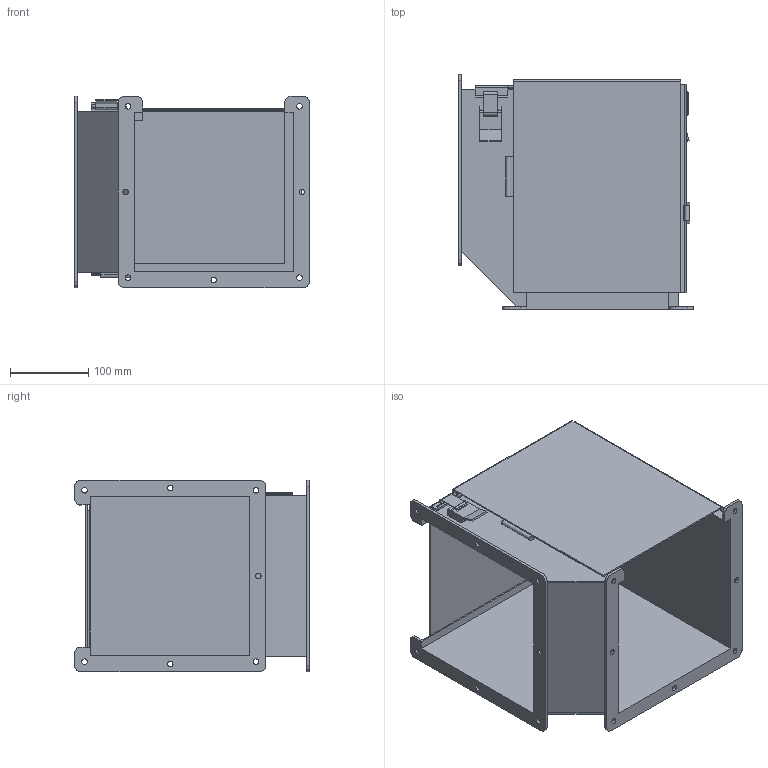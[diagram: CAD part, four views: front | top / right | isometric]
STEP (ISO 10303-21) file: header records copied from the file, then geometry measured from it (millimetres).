
FILE_DESCRIPTION((''),'1');
FILE_NAME('4','2001-04-18T',('jlue'),(''),'PRO/ENGINEER BY PARAMETRIC TECHNOLOGY CORPORATION, 9846','PRO/ENGINEER BY PARAMETRIC TECHNOLOGY CORPORATION, 9846','');
FILE_SCHEMA(('CONFIG_CONTROL_DESIGN'));
Length unit declared in the file: inch
Products named in the file (1): 4
Bounding box: 299.97 x 299.97 x 244.35 mm (x, y, z)
Surface area: 707440 mm2 (no closed solid volume)
Topology: 0 solids, 0 shells, 226 faces, 1320 edges, 1334 vertices
Faces by surface type: plane 148, cylinder 78
Entity records: 6462 total; most frequent: COMPOSITE_CURVE_SEGMENT 1306, DIRECTION 1275, CARTESIAN_POINT 893, TRIMMED_CURVE 667, VECTOR 511, LINE 511, AXIS2_PLACEMENT_3D 382, CURVE_BOUNDED_SURFACE 226
